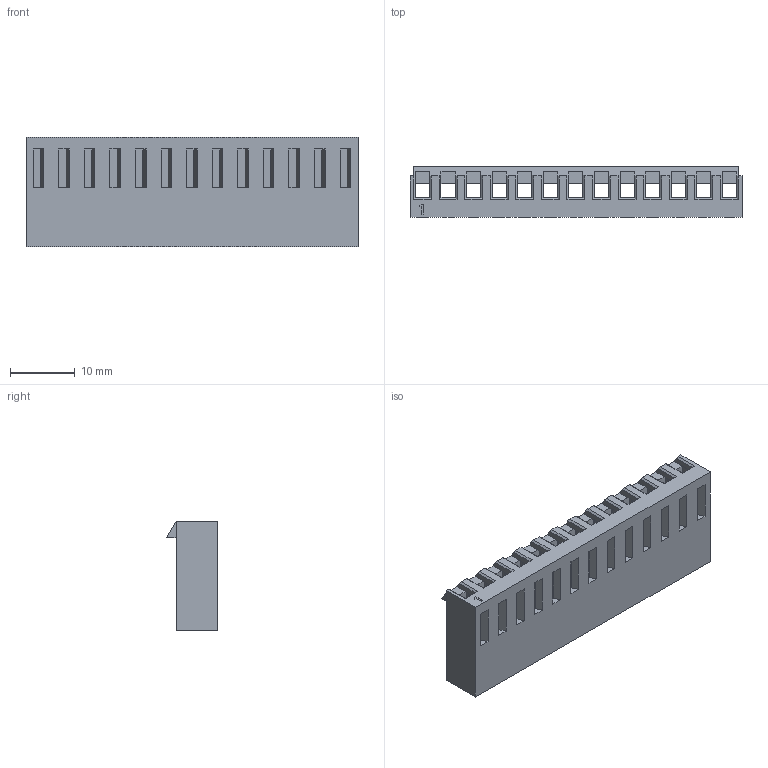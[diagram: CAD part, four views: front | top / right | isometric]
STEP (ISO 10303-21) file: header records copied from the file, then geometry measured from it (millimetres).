
FILE_DESCRIPTION((''),'2;1');
FILE_NAME('009931300','2016-08-19T',('gsharma'),(''),'PRO/ENGINEER BY PARAMETRIC TECHNOLOGY CORPORATION, 2012310','PRO/ENGINEER BY PARAMETRIC TECHNOLOGY CORPORATION, 2012310','');
FILE_SCHEMA(('CONFIG_CONTROL_DESIGN'));
Length unit declared in the file: millimetre
Products named in the file (1): 009931300
Bounding box: 51.41 x 7.87 x 17 mm (x, y, z)
Volume: 3179.9 mm3; surface area: 5861.4 mm2
Topology: 1 solids, 1 shells, 542 faces, 1603 edges, 1051 vertices
Faces by surface type: plane 542
Entity records: 17789 total; most frequent: ORIENTED_EDGE 3206, CARTESIAN_POINT 3197, DIRECTION 2689, VECTOR 1603, LINE 1603, EDGE_CURVE 1603, VERTEX_POINT 1051, EDGE_LOOP 582
